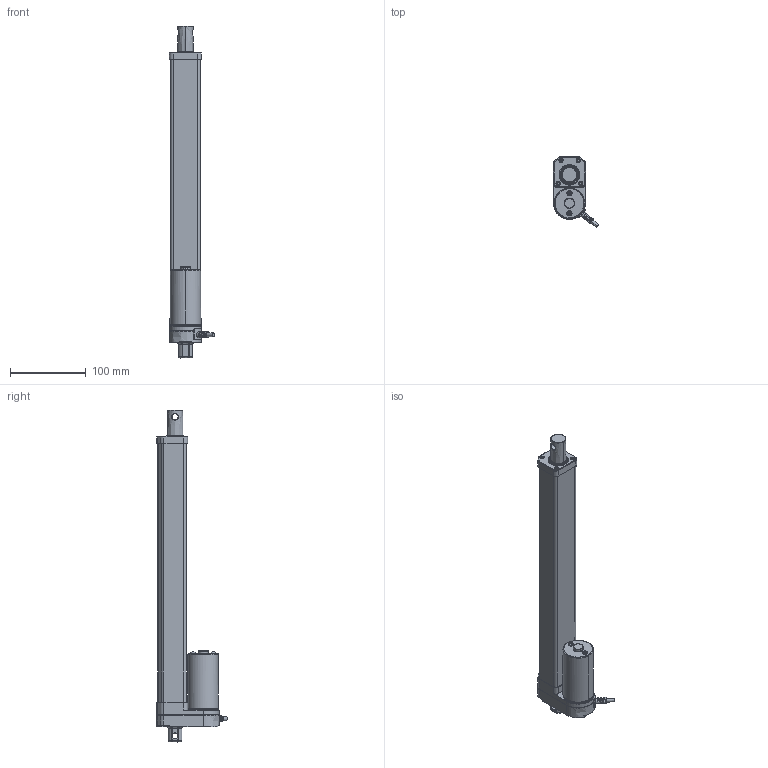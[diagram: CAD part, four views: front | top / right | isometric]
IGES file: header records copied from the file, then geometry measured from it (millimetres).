
Start section: SolidWorks IGES file using analytic representation for surfaces
Global section: file name: C:\Users\lynn\Desktop\¤u§@¥Î¸ê®Æ§¨\3D CAD Models Community\0-µ¹Camy\LD36\LD36-Standard-FC1.IGS; native system: SolidWorks 2020; preprocessor: SolidWorks 2020; author: lynn; date: 220705.090021; units: millimetre
Bounding box: 59.6 x 93.02 x 437.5 mm (x, y, z)
Surface area: 145487.9 mm2 (no closed solid volume)
Topology: 0 solids, 0 shells, 301 faces, 4372 edges, 4369 vertices
Faces by surface type: bspline 157, revolution 144
